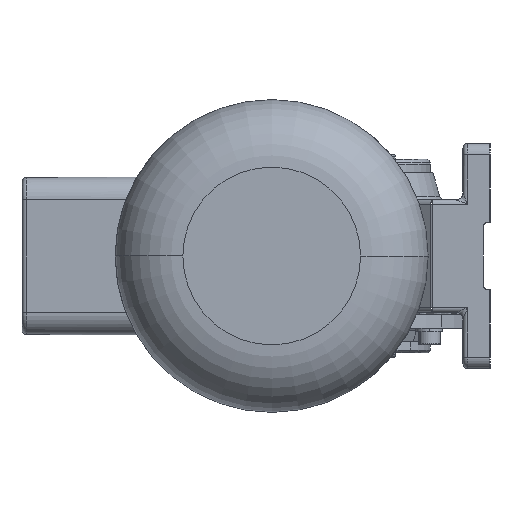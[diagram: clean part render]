
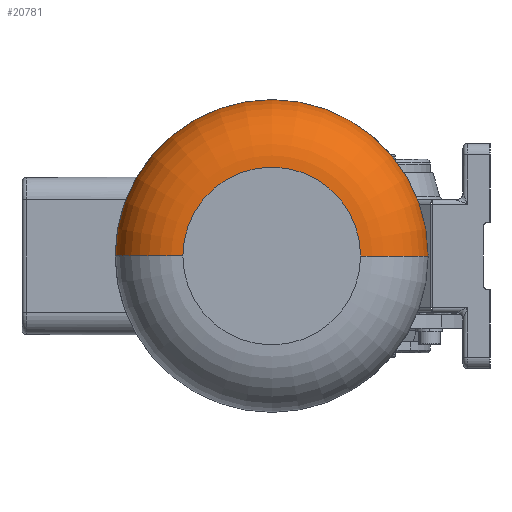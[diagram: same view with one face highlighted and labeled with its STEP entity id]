
A CAD part, left-side view. The second image highlights one B-rep face of the part: STEP entity #20781.
In plain terms, the highlighted toroidal (fillet/blend) face has major radius 39.5 mm and minor radius 30 mm.
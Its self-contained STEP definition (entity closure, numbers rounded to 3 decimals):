
#61 = CARTESIAN_POINT ( 'NONE',  ( -329.464, 51.084, 0. ) ) ;
#1021 = CARTESIAN_POINT ( 'NONE',  ( -329.464, 90.584, 0. ) ) ;
#1126 = DIRECTION ( 'NONE',  ( 0., 0., -1. ) ) ;
#1881 = DIRECTION ( 'NONE',  ( 0., 1., 0. ) ) ;
#2093 = CARTESIAN_POINT ( 'NONE',  ( -329.464, 51.084, 0. ) ) ;
#2300 = VERTEX_POINT ( 'NONE', #12360 ) ;
#3258 = CARTESIAN_POINT ( 'NONE',  ( -359.464, 90.584, 0. ) ) ;
#3594 = TOROIDAL_SURFACE ( 'NONE', #9570, 39.5, 30. ) ;
#3905 = CARTESIAN_POINT ( 'NONE',  ( -329.464, -18.416, 0. ) ) ;
#4381 = DIRECTION ( 'NONE',  ( 0., -1., 0. ) ) ;
#4387 = AXIS2_PLACEMENT_3D ( 'NONE', #1021, #1126, #19711 ) ;
#5046 = AXIS2_PLACEMENT_3D ( 'NONE', #2093, #8473, #1881 ) ;
#5739 = CARTESIAN_POINT ( 'NONE',  ( -359.464, 51.084, 0. ) ) ;
#6117 = CIRCLE ( 'NONE', #5046, 69.5 ) ;
#6153 = DIRECTION ( 'NONE',  ( 0., 0., 1. ) ) ;
#6394 = CIRCLE ( 'NONE', #9610, 39.5 ) ;
#6784 = DIRECTION ( 'NONE',  ( 0., 1., 0. ) ) ;
#7082 = EDGE_CURVE ( 'NONE', #2300, #17605, #6117, .T. ) ;
#7368 = ORIENTED_EDGE ( 'NONE', *, *, #7082, .F. ) ;
#7732 = CARTESIAN_POINT ( 'NONE',  ( -359.464, 11.584, 0. ) ) ;
#8473 = DIRECTION ( 'NONE',  ( 1., 0., 0. ) ) ;
#9570 = AXIS2_PLACEMENT_3D ( 'NONE', #61, #17181, #6784 ) ;
#9610 = AXIS2_PLACEMENT_3D ( 'NONE', #5739, #14395, #17588 ) ;
#11228 = ORIENTED_EDGE ( 'NONE', *, *, #11555, .T. ) ;
#11555 = EDGE_CURVE ( 'NONE', #20032, #17605, #19539, .T. ) ;
#12024 = EDGE_CURVE ( 'NONE', #20278, #2300, #17105, .T. ) ;
#12109 = FACE_OUTER_BOUND ( 'NONE', #19367, .T. ) ;
#12360 = CARTESIAN_POINT ( 'NONE',  ( -329.464, 120.584, 0. ) ) ;
#14395 = DIRECTION ( 'NONE',  ( -1., 0., 0. ) ) ;
#15050 = ORIENTED_EDGE ( 'NONE', *, *, #21207, .F. ) ;
#15226 = ORIENTED_EDGE ( 'NONE', *, *, #12024, .F. ) ;
#17105 = CIRCLE ( 'NONE', #4387, 30. ) ;
#17181 = DIRECTION ( 'NONE',  ( 1., 0., 0. ) ) ;
#17588 = DIRECTION ( 'NONE',  ( 0., 1., 0. ) ) ;
#17605 = VERTEX_POINT ( 'NONE', #3905 ) ;
#18099 = AXIS2_PLACEMENT_3D ( 'NONE', #19567, #6153, #4381 ) ;
#19367 = EDGE_LOOP ( 'NONE', ( #15050, #11228, #7368, #15226 ) ) ;
#19539 = CIRCLE ( 'NONE', #18099, 30. ) ;
#19567 = CARTESIAN_POINT ( 'NONE',  ( -329.464, 11.584, 0. ) ) ;
#19711 = DIRECTION ( 'NONE',  ( 0., 1., 0. ) ) ;
#20032 = VERTEX_POINT ( 'NONE', #7732 ) ;
#20278 = VERTEX_POINT ( 'NONE', #3258 ) ;
#20781 = ADVANCED_FACE ( 'NONE', ( #12109 ), #3594, .T. ) ;
#21207 = EDGE_CURVE ( 'NONE', #20032, #20278, #6394, .T. ) ;
